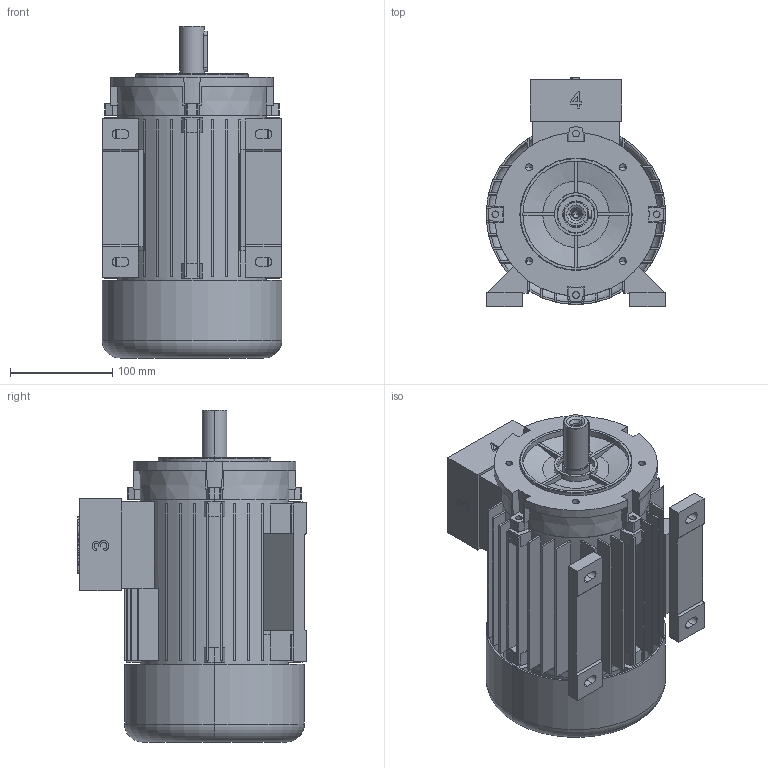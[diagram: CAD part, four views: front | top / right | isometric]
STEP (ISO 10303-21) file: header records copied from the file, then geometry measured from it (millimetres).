
FILE_DESCRIPTION (( 'STEP AP214' ), '1' );
FILE_NAME ('20.18272-G 5AZ 90L B34 large STANDK.STEP', '2018-07-16T12:01:23', ( '' ), ( '' ), 'SwSTEP 2.0', 'SolidWorks 2018', '' );
FILE_SCHEMA (( 'AUTOMOTIVE_DESIGN' ));
Length unit declared in the file: millimetre
Products named in the file (1): 20.18272-G 5AZ 90L B34 large STANDK
Bounding box: 176 x 224 x 325 mm (x, y, z)
Volume: 1970610.1 mm3; surface area: 679560 mm2
Topology: 9 solids, 9 shells, 792 faces, 2128 edges, 1399 vertices
Faces by surface type: plane 493, cylinder 177, cone 74, bspline 42, torus 6
Entity records: 27237 total; most frequent: CARTESIAN_POINT 7241, ORIENTED_EDGE 4236, DIRECTION 3988, EDGE_CURVE 2118, VERTEX_POINT 1399, AXIS2_PLACEMENT_3D 1352, LINE 1284, VECTOR 1284
